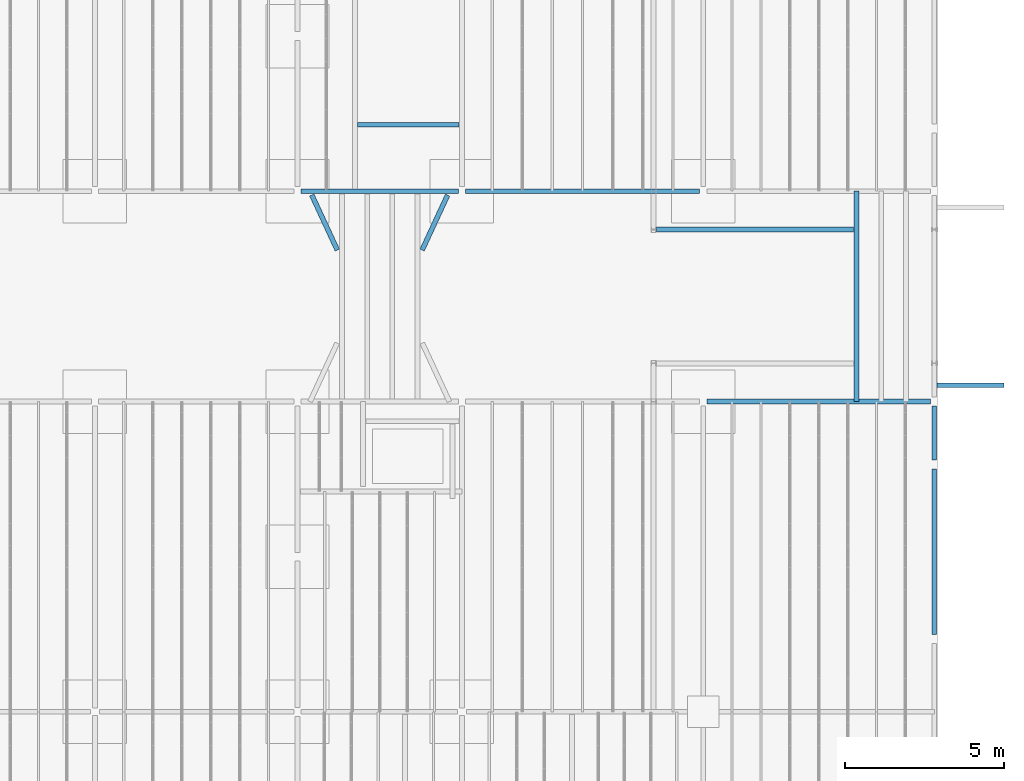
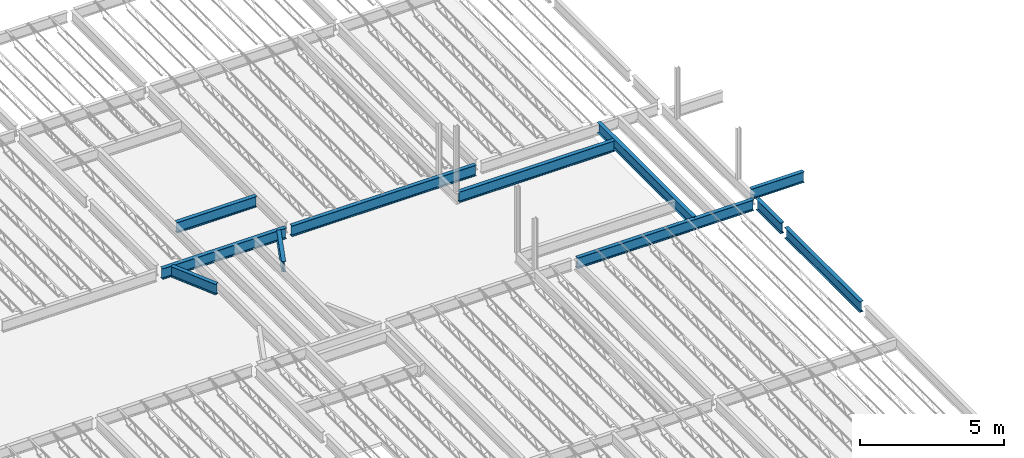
# One storey, part 13 of 75: 11 beams.
"""IFC2X3 building model written with IfcOpenShell, lengths in metres."""

from ifc_helpers import new_model, entity, si_unit, converted_unit, frame, frame_2d, origin, place, context, project, spatial, polyline, circle_curve, parameter, trimmed, segment, composite_curve, outline, extrude, material, element, save


model = new_model("IFC2X3")

# Units and contexts
model_context = context("Model", 3, precision=1e-09, world=origin())
plan_context = context("Plan", 3, precision=1e-09, world=origin())
ifc_project = project(units=[si_unit("LENGTHUNIT", "METRE"), si_unit("AREAUNIT", "SQUARE_METRE"), si_unit("VOLUMEUNIT", "CUBIC_METRE"), converted_unit("PLANEANGLEUNIT", "DEGREE", entity("IfcRatioMeasure", 0.01745329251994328), si_unit("PLANEANGLEUNIT", "RADIAN"), dimensions=[0, 0, 0, 0, 0, 0, 0]), si_unit("TIMEUNIT", "SECOND")], contexts=[model_context, plan_context])

# Site, building, storey
site_placement = place(None, origin())
site = spatial("IfcSite", under=ifc_project, at=site_placement, Name="Default", CompositionType="ELEMENT")
building_placement = place(site_placement, origin())
building = spatial("IfcBuilding", under=site, at=building_placement, CompositionType="ELEMENT")
storey_placement = place(building_placement, origin())
storey = spatial("IfcBuildingStorey", under=building, at=storey_placement, Name="First Floor", CompositionType="ELEMENT", Elevation=-3.531500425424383e-13)

# Beams
ifc_material = material(Name="Metal - Steel - 345 MPa")
beam_1_placement = place(storey_placement, frame((-7.278198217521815, 35.00999999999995, 4.404500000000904), z_axis=(0.0, 0.0, 1.0), x_axis=(0.0, 1.0, 0.0)))
element("IfcBeam", 1, at=beam_1_placement, inside=storey, material=ifc_material, Name="M_W-Wide Flange:W460X60:W460X60", ObjectType="M_W-Wide Flange:W460X60", context=model_context, shape_type="SweptSolid", body=[
    extrude(outline(composite_curve([segment(polyline([(0.2141999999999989, -0.07650000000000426), (0.2274999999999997, -0.07650000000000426)]), True, "CONTINUOUS"), segment(polyline([(0.2274999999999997, -0.07650000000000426), (0.2274999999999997, 0.0764999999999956)]), True, "CONTINUOUS"), segment(polyline([(0.2274999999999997, 0.0764999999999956), (0.2141999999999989, 0.0764999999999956)]), True, "CONTINUOUS"), segment(polyline([(0.2141999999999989, 0.0764999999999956), (0.2141999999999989, 0.02169999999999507)]), True, "CONTINUOUS"), segment(trimmed(circle_curve(frame_2d((0.1964999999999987, 0.02169999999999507), x_axis=(1.0, 0.0)), 0.0177), [parameter(269.9999999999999)], [parameter(359.9999999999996)], True, "PARAMETER"), False, "CONTINUOUS"), segment(polyline([(0.1964999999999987, 0.00399999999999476), (-0.1965000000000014, 0.00399999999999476)]), True, "CONTINUOUS"), segment(trimmed(circle_curve(frame_2d((-0.1965000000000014, 0.02169999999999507), x_axis=(0.0, -1.0)), 0.0177), [parameter(269.9999999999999)], [parameter(359.9999999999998)], True, "PARAMETER"), False, "CONTINUOUS"), segment(polyline([(-0.2142000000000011, 0.02169999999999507), (-0.2142000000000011, 0.0764999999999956)]), True, "CONTINUOUS"), segment(polyline([(-0.2142000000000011, 0.0764999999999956), (-0.2275000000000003, 0.0764999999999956)]), True, "CONTINUOUS"), segment(polyline([(-0.2275000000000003, 0.0764999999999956), (-0.2275000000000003, -0.07650000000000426)]), True, "CONTINUOUS"), segment(polyline([(-0.2275000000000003, -0.07650000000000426), (-0.2142000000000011, -0.07650000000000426)]), True, "CONTINUOUS"), segment(polyline([(-0.2142000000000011, -0.07650000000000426), (-0.2142000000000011, -0.02170000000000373)]), True, "CONTINUOUS"), segment(trimmed(circle_curve(frame_2d((-0.1965000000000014, -0.02170000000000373), x_axis=(-1.0, 0.0)), 0.0177), [parameter(269.9999999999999)], [parameter(359.9999999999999)], True, "PARAMETER"), False, "CONTINUOUS"), segment(polyline([(-0.1965000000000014, -0.004000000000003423), (0.1964999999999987, -0.004000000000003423)]), True, "CONTINUOUS"), segment(trimmed(circle_curve(frame_2d((0.1964999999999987, -0.02170000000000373), x_axis=(0.0, 1.0)), 0.0177), [parameter(269.9999999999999)], [parameter(5.088887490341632e-14)], True, "PARAMETER"), False, "CONTINUOUS"), segment(polyline([(0.2141999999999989, -0.02170000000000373), (0.2141999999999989, -0.07650000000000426)]), True, "CONTINUOUS")], self_intersect=False)), frame((0.0, 7.487076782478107, -0.2275000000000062), z_axis=(0.0, -1.0, 0.0), x_axis=(0.0, 0.0, -1.0)), (0.0, 0.0, 1.0), 7.370574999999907),
])
beam_2_placement = place(storey_placement, frame((-17.93013951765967, 37.10102780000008, 4.468000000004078), z_axis=(0.0, 0.0, 1.0), x_axis=(0.0, -1.0, 0.0)))
element("IfcBeam", 2, at=beam_2_placement, inside=storey, material=ifc_material, Name="M_W-Wide Flange:W460X60:W460X60", ObjectType="M_W-Wide Flange:W460X60", context=model_context, shape_type="SweptSolid", body=[
    extrude(outline(composite_curve([segment(polyline([(-0.0764999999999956, -0.2142000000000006), (-0.0764999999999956, -0.2275000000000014)]), True, "CONTINUOUS"), segment(polyline([(-0.0764999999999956, -0.2275000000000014), (0.07650000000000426, -0.2275000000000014)]), True, "CONTINUOUS"), segment(polyline([(0.07650000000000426, -0.2275000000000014), (0.07650000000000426, -0.2142000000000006)]), True, "CONTINUOUS"), segment(polyline([(0.07650000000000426, -0.2142000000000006), (0.02170000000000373, -0.2142000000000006)]), True, "CONTINUOUS"), segment(trimmed(circle_curve(frame_2d((0.02170000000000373, -0.1965000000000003), x_axis=(1.0, 0.0)), 0.0177), [parameter(180.0)], [parameter(269.9999999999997)], True, "PARAMETER"), False, "CONTINUOUS"), segment(polyline([(0.004000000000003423, -0.1965000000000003), (0.004000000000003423, 0.1964999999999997)]), True, "CONTINUOUS"), segment(trimmed(circle_curve(frame_2d((0.02170000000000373, 0.1964999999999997), x_axis=(1.0, 0.0)), 0.0177), [parameter(90.00000000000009)], [parameter(179.9999999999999)], True, "PARAMETER"), False, "CONTINUOUS"), segment(polyline([(0.02170000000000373, 0.2141999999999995), (0.07650000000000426, 0.2141999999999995)]), True, "CONTINUOUS"), segment(polyline([(0.07650000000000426, 0.2141999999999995), (0.07650000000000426, 0.2274999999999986)]), True, "CONTINUOUS"), segment(polyline([(0.07650000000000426, 0.2274999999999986), (-0.0764999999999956, 0.2274999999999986)]), True, "CONTINUOUS"), segment(polyline([(-0.0764999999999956, 0.2274999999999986), (-0.0764999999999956, 0.2141999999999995)]), True, "CONTINUOUS"), segment(polyline([(-0.0764999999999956, 0.2141999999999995), (-0.02169999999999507, 0.2141999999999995)]), True, "CONTINUOUS"), segment(trimmed(circle_curve(frame_2d((-0.02169999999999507, 0.1964999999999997), x_axis=(1.0, 0.0)), 0.0177), [parameter(359.9999999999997)], [parameter(89.99999999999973)], True, "PARAMETER"), False, "CONTINUOUS"), segment(polyline([(-0.00399999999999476, 0.1964999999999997), (-0.00399999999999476, -0.1965000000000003)]), True, "CONTINUOUS"), segment(trimmed(circle_curve(frame_2d((-0.02169999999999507, -0.1965000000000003), x_axis=(1.0, 0.0)), 0.0177), [parameter(269.9999999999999)], [parameter(0.0)], True, "PARAMETER"), False, "CONTINUOUS"), segment(polyline([(-0.02169999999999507, -0.2142000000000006), (-0.0764999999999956, -0.2142000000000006)]), True, "CONTINUOUS")], self_intersect=False)), frame((0.0, -0.2327190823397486, -0.2275000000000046), z_axis=(0.0, -1.0, 0.0), x_axis=(1.0, 0.0, 0.0)), (0.0, 0.0, -1.0), 3.192108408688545),
])
beam_3_placement = place(storey_placement, frame((-14.87733184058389, 35.00999999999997, 4.404500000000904), z_axis=(0.0, 0.0, 1.0), x_axis=(0.0, 1.0, 0.0)))
element("IfcBeam", 3, at=beam_3_placement, inside=storey, material=ifc_material, Name="M_W-Wide Flange:W460X60:W460X60", ObjectType="M_W-Wide Flange:W460X60", context=model_context, shape_type="SweptSolid", body=[
    extrude(outline(composite_curve([segment(polyline([(0.2141999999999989, -0.0764999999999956), (0.2274999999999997, -0.0764999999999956)]), True, "CONTINUOUS"), segment(polyline([(0.2274999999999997, -0.0764999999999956), (0.2274999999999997, 0.07650000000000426)]), True, "CONTINUOUS"), segment(polyline([(0.2274999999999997, 0.07650000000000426), (0.2141999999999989, 0.07650000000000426)]), True, "CONTINUOUS"), segment(polyline([(0.2141999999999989, 0.07650000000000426), (0.2141999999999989, 0.02170000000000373)]), True, "CONTINUOUS"), segment(trimmed(circle_curve(frame_2d((0.1964999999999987, 0.02170000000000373), x_axis=(1.0, 0.0)), 0.0177), [parameter(269.9999999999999)], [parameter(359.9999999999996)], True, "PARAMETER"), False, "CONTINUOUS"), segment(polyline([(0.1964999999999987, 0.004000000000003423), (-0.1965000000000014, 0.004000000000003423)]), True, "CONTINUOUS"), segment(trimmed(circle_curve(frame_2d((-0.1965000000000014, 0.02170000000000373), x_axis=(0.0, -1.0)), 0.0177), [parameter(269.9999999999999)], [parameter(359.9999999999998)], True, "PARAMETER"), False, "CONTINUOUS"), segment(polyline([(-0.2142000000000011, 0.02170000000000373), (-0.2142000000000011, 0.07650000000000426)]), True, "CONTINUOUS"), segment(polyline([(-0.2142000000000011, 0.07650000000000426), (-0.2275000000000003, 0.07650000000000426)]), True, "CONTINUOUS"), segment(polyline([(-0.2275000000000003, 0.07650000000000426), (-0.2275000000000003, -0.0764999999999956)]), True, "CONTINUOUS"), segment(polyline([(-0.2275000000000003, -0.0764999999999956), (-0.2142000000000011, -0.0764999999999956)]), True, "CONTINUOUS"), segment(polyline([(-0.2142000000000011, -0.0764999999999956), (-0.2142000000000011, -0.02169999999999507)]), True, "CONTINUOUS"), segment(trimmed(circle_curve(frame_2d((-0.1965000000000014, -0.02169999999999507), x_axis=(-1.0, 0.0)), 0.0177), [parameter(269.9999999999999)], [parameter(359.9999999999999)], True, "PARAMETER"), False, "CONTINUOUS"), segment(polyline([(-0.1965000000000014, -0.00399999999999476), (0.1964999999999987, -0.00399999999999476)]), True, "CONTINUOUS"), segment(trimmed(circle_curve(frame_2d((0.1964999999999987, -0.02169999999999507), x_axis=(0.0, 1.0)), 0.0177), [parameter(269.9999999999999)], [parameter(5.088887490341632e-14)], True, "PARAMETER"), False, "CONTINUOUS"), segment(polyline([(0.2141999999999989, -0.02169999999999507), (0.2141999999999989, -0.0764999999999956)]), True, "CONTINUOUS")], self_intersect=False)), frame((0.0, 5.067968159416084, -0.2275000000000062), z_axis=(0.0, -1.0, 0.0), x_axis=(0.0, 0.0, -1.0)), (0.0, 0.0, 1.0), 4.950625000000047),
])
beam_4_placement = place(storey_placement, frame((-18.72208974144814, 32.9750091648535, 4.468000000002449), z_axis=(0.0, 0.0, 1.0), x_axis=(0.9072712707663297, 0.4205458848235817, 0.0)))
element("IfcBeam", 4, at=beam_4_placement, inside=storey, material=ifc_material, Name="M_W-Wide Flange:W460X60:W460X60", ObjectType="M_W-Wide Flange:W460X60", context=model_context, shape_type="SweptSolid", body=[
    extrude(outline(composite_curve([segment(polyline([(-0.07649999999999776, -0.2142), (-0.07649999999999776, -0.2275000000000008)]), True, "CONTINUOUS"), segment(polyline([(-0.07649999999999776, -0.2275000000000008), (0.0765000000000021, -0.2275000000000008)]), True, "CONTINUOUS"), segment(polyline([(0.0765000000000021, -0.2275000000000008), (0.0765000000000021, -0.2142)]), True, "CONTINUOUS"), segment(polyline([(0.0765000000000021, -0.2142), (0.02170000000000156, -0.2142)]), True, "CONTINUOUS"), segment(trimmed(circle_curve(frame_2d((0.02170000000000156, -0.1964999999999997), x_axis=(1.0, 0.0)), 0.0177), [parameter(180.0)], [parameter(269.9999999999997)], True, "PARAMETER"), False, "CONTINUOUS"), segment(polyline([(0.004000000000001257, -0.1964999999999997), (0.004000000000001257, 0.1965000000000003)]), True, "CONTINUOUS"), segment(trimmed(circle_curve(frame_2d((0.02170000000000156, 0.1965000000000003), x_axis=(1.0, 0.0)), 0.0177), [parameter(90.00000000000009)], [parameter(179.9999999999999)], True, "PARAMETER"), False, "CONTINUOUS"), segment(polyline([(0.02170000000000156, 0.2142000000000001), (0.0765000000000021, 0.2142000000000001)]), True, "CONTINUOUS"), segment(polyline([(0.0765000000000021, 0.2142000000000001), (0.0765000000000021, 0.2274999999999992)]), True, "CONTINUOUS"), segment(polyline([(0.0765000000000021, 0.2274999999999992), (-0.07649999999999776, 0.2274999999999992)]), True, "CONTINUOUS"), segment(polyline([(-0.07649999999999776, 0.2274999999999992), (-0.07649999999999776, 0.2142000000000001)]), True, "CONTINUOUS"), segment(polyline([(-0.07649999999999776, 0.2142000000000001), (-0.0216999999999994, 0.2142000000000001)]), True, "CONTINUOUS"), segment(trimmed(circle_curve(frame_2d((-0.02169999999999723, 0.1965000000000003), x_axis=(1.0, 0.0)), 0.0177), [parameter(359.9999999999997)], [parameter(89.99999999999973)], True, "PARAMETER"), False, "CONTINUOUS"), segment(polyline([(-0.00399999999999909, 0.1965000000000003), (-0.00399999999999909, -0.1964999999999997)]), True, "CONTINUOUS"), segment(trimmed(circle_curve(frame_2d((-0.02169999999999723, -0.1964999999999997), x_axis=(1.0, 0.0)), 0.0177), [parameter(269.9999999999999)], [parameter(0.0)], True, "PARAMETER"), False, "CONTINUOUS"), segment(polyline([(-0.0216999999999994, -0.2142), (-0.07649999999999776, -0.2142)]), True, "CONTINUOUS")], self_intersect=False)), frame((0.0, 0.2000073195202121, -0.2275000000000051), z_axis=(0.0, -1.0, 0.0), x_axis=(1.0, 0.0, 0.0)), (0.0, 0.0, -1.0), 1.910493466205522),
])
beam_5_placement = place(storey_placement, frame((0.0, 28.38285557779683, 4.46800000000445), z_axis=(0.0, 0.0, 1.0), x_axis=(-1.0, 0.0, 0.0)))
element("IfcBeam", 5, at=beam_5_placement, inside=storey, material=ifc_material, Name="M_W-Wide Flange:W460X60:W460X60", ObjectType="M_W-Wide Flange:W460X60", context=model_context, shape_type="SweptSolid", body=[
    extrude(outline(composite_curve([segment(polyline([(0.2142000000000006, -0.07650000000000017), (0.2275000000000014, -0.07650000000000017)]), True, "CONTINUOUS"), segment(polyline([(0.2275000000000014, -0.07650000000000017), (0.2275000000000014, 0.07650000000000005)]), True, "CONTINUOUS"), segment(polyline([(0.2275000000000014, 0.07650000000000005), (0.2142000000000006, 0.07650000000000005)]), True, "CONTINUOUS"), segment(polyline([(0.2142000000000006, 0.07650000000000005), (0.2142000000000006, 0.02169999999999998)]), True, "CONTINUOUS"), segment(trimmed(circle_curve(frame_2d((0.1965000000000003, 0.02169999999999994), x_axis=(0.0, 1.0)), 0.0177), [parameter(180.0)], [parameter(269.9999999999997)], True, "PARAMETER"), False, "CONTINUOUS"), segment(polyline([(0.1965000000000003, 0.003999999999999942), (-0.1964999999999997, 0.003999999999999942)]), True, "CONTINUOUS"), segment(trimmed(circle_curve(frame_2d((-0.1964999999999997, 0.02169999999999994), x_axis=(0.0, 1.0)), 0.0177), [parameter(90.00000000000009)], [parameter(179.9999999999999)], True, "PARAMETER"), False, "CONTINUOUS"), segment(polyline([(-0.2141999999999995, 0.02169999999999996), (-0.2141999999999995, 0.07650000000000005)]), True, "CONTINUOUS"), segment(polyline([(-0.2141999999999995, 0.07650000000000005), (-0.2274999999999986, 0.07650000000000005)]), True, "CONTINUOUS"), segment(polyline([(-0.2274999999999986, 0.07650000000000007), (-0.2274999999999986, -0.0764999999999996)]), True, "CONTINUOUS"), segment(polyline([(-0.2274999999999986, -0.0764999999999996), (-0.2141999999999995, -0.0764999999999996)]), True, "CONTINUOUS"), segment(polyline([(-0.2141999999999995, -0.0764999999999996), (-0.2141999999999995, -0.02170000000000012)]), True, "CONTINUOUS"), segment(trimmed(circle_curve(frame_2d((-0.1964999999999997, -0.02170000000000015), x_axis=(0.0, 1.0)), 0.0177), [parameter(359.9999999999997)], [parameter(89.99999999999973)], True, "PARAMETER"), False, "CONTINUOUS"), segment(polyline([(-0.1964999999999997, -0.004000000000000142), (0.1965000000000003, -0.004000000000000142)]), True, "CONTINUOUS"), segment(trimmed(circle_curve(frame_2d((0.1965000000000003, -0.02170000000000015), x_axis=(0.0, 1.0)), 0.0177), [parameter(269.9999999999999)], [parameter(0.0)], True, "PARAMETER"), False, "CONTINUOUS"), segment(polyline([(0.2142000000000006, -0.02170000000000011), (0.2142000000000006, -0.07650000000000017)]), True, "CONTINUOUS")], self_intersect=False)), frame((0.0, 1.842839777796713, -0.2275000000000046), z_axis=(0.0, -1.0, 0.0), x_axis=(0.0, 0.0, -1.0)), (0.0, 0.0, 1.0), 1.698784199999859),
])
beam_6_placement = place(storey_placement, frame((-16.21782005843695, 32.9750091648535, 4.468000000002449), z_axis=(0.0, 0.0, 1.0), x_axis=(0.90727127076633, -0.4205458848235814, 0.0)))
element("IfcBeam", 6, at=beam_6_placement, inside=storey, material=ifc_material, Name="M_W-Wide Flange:W460X60:W460X60", ObjectType="M_W-Wide Flange:W460X60", context=model_context, shape_type="SweptSolid", body=[
    extrude(outline(composite_curve([segment(polyline([(-0.07649999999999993, -0.2142), (-0.07649999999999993, -0.2275000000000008)]), True, "CONTINUOUS"), segment(polyline([(-0.07649999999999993, -0.2275000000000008), (0.07649999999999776, -0.2275000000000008)]), True, "CONTINUOUS"), segment(polyline([(0.07649999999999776, -0.2275000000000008), (0.07649999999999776, -0.2142)]), True, "CONTINUOUS"), segment(polyline([(0.07649999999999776, -0.2142), (0.02169999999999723, -0.2142)]), True, "CONTINUOUS"), segment(trimmed(circle_curve(frame_2d((0.02169999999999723, -0.1964999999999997), x_axis=(1.0, 0.0)), 0.0177), [parameter(180.0)], [parameter(269.9999999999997)], True, "PARAMETER"), False, "CONTINUOUS"), segment(polyline([(0.00399999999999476, -0.1964999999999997), (0.00399999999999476, 0.1965000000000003)]), True, "CONTINUOUS"), segment(trimmed(circle_curve(frame_2d((0.02169999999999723, 0.1965000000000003), x_axis=(1.0, 0.0)), 0.0177), [parameter(90.00000000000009)], [parameter(179.9999999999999)], True, "PARAMETER"), False, "CONTINUOUS"), segment(polyline([(0.02169999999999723, 0.2142000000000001), (0.07649999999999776, 0.2142000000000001)]), True, "CONTINUOUS"), segment(polyline([(0.07649999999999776, 0.2142000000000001), (0.07649999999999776, 0.2274999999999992)]), True, "CONTINUOUS"), segment(polyline([(0.07649999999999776, 0.2274999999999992), (-0.07649999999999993, 0.2274999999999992)]), True, "CONTINUOUS"), segment(polyline([(-0.07649999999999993, 0.2274999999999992), (-0.07649999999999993, 0.2142000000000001)]), True, "CONTINUOUS"), segment(polyline([(-0.07649999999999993, 0.2142000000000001), (-0.02170000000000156, 0.2142000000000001)]), True, "CONTINUOUS"), segment(trimmed(circle_curve(frame_2d((-0.02170000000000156, 0.1965000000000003), x_axis=(1.0, 0.0)), 0.0177), [parameter(359.9999999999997)], [parameter(89.99999999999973)], True, "PARAMETER"), False, "CONTINUOUS"), segment(polyline([(-0.004000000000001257, 0.1965000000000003), (-0.004000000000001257, -0.1964999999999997)]), True, "CONTINUOUS"), segment(trimmed(circle_curve(frame_2d((-0.02170000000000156, -0.1964999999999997), x_axis=(1.0, 0.0)), 0.0177), [parameter(269.9999999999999)], [parameter(0.0)], True, "PARAMETER"), False, "CONTINUOUS"), segment(polyline([(-0.02170000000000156, -0.2142), (-0.07649999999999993, -0.2142)]), True, "CONTINUOUS")], self_intersect=False)), frame((0.0, 0.2000073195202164, -0.2275000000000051), z_axis=(0.0, -1.0, 0.0), x_axis=(1.0, 0.0, 0.0)), (0.0, 0.0, -1.0), 1.910493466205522),
])
beam_7_placement = place(storey_placement, frame((-2.450103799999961, 28.65946174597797, 4.46800000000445)))
element("IfcBeam", 7, at=beam_7_placement, inside=storey, material=ifc_material, Name="M_W-Wide Flange:W460X60:W460X60", ObjectType="M_W-Wide Flange:W460X60", context=model_context, shape_type="SweptSolid", body=[
    extrude(outline(composite_curve([segment(polyline([(-0.07649999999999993, -0.2142), (-0.07649999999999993, -0.2275000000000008)]), True, "CONTINUOUS"), segment(polyline([(-0.07649999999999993, -0.2275000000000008), (0.0765000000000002, -0.2275000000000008)]), True, "CONTINUOUS"), segment(polyline([(0.0765000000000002, -0.2275000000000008), (0.0765000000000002, -0.2142)]), True, "CONTINUOUS"), segment(polyline([(0.0765000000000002, -0.2142), (0.02170000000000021, -0.2142)]), True, "CONTINUOUS"), segment(trimmed(circle_curve(frame_2d((0.02170000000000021, -0.1964999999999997), x_axis=(1.0, 0.0)), 0.0177), [parameter(180.0)], [parameter(269.9999999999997)], True, "PARAMETER"), False, "CONTINUOUS"), segment(polyline([(0.004000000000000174, -0.1964999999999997), (0.004000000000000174, 0.1965000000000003)]), True, "CONTINUOUS"), segment(trimmed(circle_curve(frame_2d((0.02170000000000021, 0.1965000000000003), x_axis=(1.0, 0.0)), 0.0177), [parameter(90.00000000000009)], [parameter(179.9999999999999)], True, "PARAMETER"), False, "CONTINUOUS"), segment(polyline([(0.02169999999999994, 0.2142000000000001), (0.0765000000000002, 0.2142000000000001)]), True, "CONTINUOUS"), segment(polyline([(0.0765000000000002, 0.2142000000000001), (0.0765000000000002, 0.2274999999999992)]), True, "CONTINUOUS"), segment(polyline([(0.0765000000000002, 0.2274999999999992), (-0.07649999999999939, 0.2274999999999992)]), True, "CONTINUOUS"), segment(polyline([(-0.07649999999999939, 0.2274999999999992), (-0.07649999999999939, 0.2142000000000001)]), True, "CONTINUOUS"), segment(polyline([(-0.07649999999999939, 0.2142000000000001), (-0.02169999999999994, 0.2142000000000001)]), True, "CONTINUOUS"), segment(trimmed(circle_curve(frame_2d((-0.02169999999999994, 0.1965000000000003), x_axis=(1.0, 0.0)), 0.0177), [parameter(359.9999999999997)], [parameter(89.99999999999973)], True, "PARAMETER"), False, "CONTINUOUS"), segment(polyline([(-0.004000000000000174, 0.1965000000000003), (-0.004000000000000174, -0.1964999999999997)]), True, "CONTINUOUS"), segment(trimmed(circle_curve(frame_2d((-0.02169999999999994, -0.1964999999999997), x_axis=(1.0, 0.0)), 0.0177), [parameter(269.9999999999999)], [parameter(0.0)], True, "PARAMETER"), False, "CONTINUOUS"), segment(polyline([(-0.02169999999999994, -0.2142), (-0.07649999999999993, -0.2142)]), True, "CONTINUOUS")], self_intersect=False)), frame((0.0, -0.2794617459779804, -0.2275000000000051), z_axis=(0.0, -1.0, 0.0), x_axis=(1.0, 0.0, 0.0)), (0.0, 0.0, -1.0), 6.629999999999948),
])
beam_8_placement = place(storey_placement, frame((1.889788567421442, 28.89499999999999, 4.46800000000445), z_axis=(0.0, 0.0, 1.0), x_axis=(0.0, 1.0, 0.0)))
element("IfcBeam", 8, at=beam_8_placement, inside=storey, material=ifc_material, Name="M_W-Wide Flange:W460X60:W460X60", ObjectType="M_W-Wide Flange:W460X60", context=model_context, shape_type="SweptSolid", body=[
    extrude(outline(composite_curve([segment(polyline([(-0.07649999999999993, -0.2142), (-0.07649999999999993, -0.2275000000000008)]), True, "CONTINUOUS"), segment(polyline([(-0.07649999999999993, -0.2275000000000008), (0.07649999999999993, -0.2275000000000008)]), True, "CONTINUOUS"), segment(polyline([(0.07649999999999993, -0.2275000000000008), (0.07649999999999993, -0.2142)]), True, "CONTINUOUS"), segment(polyline([(0.07649999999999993, -0.2142), (0.0216999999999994, -0.2142)]), True, "CONTINUOUS"), segment(trimmed(circle_curve(frame_2d((0.0216999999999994, -0.1964999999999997), x_axis=(1.0, 0.0)), 0.0177), [parameter(180.0)], [parameter(269.9999999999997)], True, "PARAMETER"), False, "CONTINUOUS"), segment(polyline([(0.003999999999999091, -0.1964999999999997), (0.003999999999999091, 0.1965000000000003)]), True, "CONTINUOUS"), segment(trimmed(circle_curve(frame_2d((0.0216999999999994, 0.1965000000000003), x_axis=(1.0, 0.0)), 0.0177), [parameter(90.00000000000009)], [parameter(179.9999999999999)], True, "PARAMETER"), False, "CONTINUOUS"), segment(polyline([(0.0216999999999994, 0.2142000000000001), (0.07649999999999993, 0.2142000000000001)]), True, "CONTINUOUS"), segment(polyline([(0.07649999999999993, 0.2142000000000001), (0.07649999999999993, 0.2274999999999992)]), True, "CONTINUOUS"), segment(polyline([(0.07649999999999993, 0.2274999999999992), (-0.07649999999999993, 0.2274999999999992)]), True, "CONTINUOUS"), segment(polyline([(-0.07649999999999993, 0.2274999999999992), (-0.07649999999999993, 0.2142000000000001)]), True, "CONTINUOUS"), segment(polyline([(-0.07649999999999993, 0.2142000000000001), (-0.0216999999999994, 0.2142000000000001)]), True, "CONTINUOUS"), segment(trimmed(circle_curve(frame_2d((-0.0216999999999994, 0.1965000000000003), x_axis=(1.0, 0.0)), 0.0177), [parameter(359.9999999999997)], [parameter(89.99999999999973)], True, "PARAMETER"), False, "CONTINUOUS"), segment(polyline([(-0.003999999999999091, 0.1965000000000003), (-0.003999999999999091, -0.1964999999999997)]), True, "CONTINUOUS"), segment(trimmed(circle_curve(frame_2d((-0.0216999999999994, -0.1964999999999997), x_axis=(1.0, 0.0)), 0.0177), [parameter(269.9999999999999)], [parameter(0.0)], True, "PARAMETER"), False, "CONTINUOUS"), segment(polyline([(-0.0216999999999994, -0.2142), (-0.07649999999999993, -0.2142)]), True, "CONTINUOUS")], self_intersect=False)), frame((0.0, 1.800588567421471, -0.2275000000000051), z_axis=(0.0, 1.0, 0.0), x_axis=(-1.0, 0.0, 0.0)), (0.0, 0.0, -1.0), 2.107099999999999),
])
beam_9_placement = place(storey_placement, frame((-8.706698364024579, 33.80490799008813, 4.46800000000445), z_axis=(0.0, 0.0, 1.0), x_axis=(0.0, -1.0, 0.0)))
element("IfcBeam", 9, at=beam_9_placement, inside=storey, material=ifc_material, Name="M_W-Wide Flange:W460X60:W460X60", ObjectType="M_W-Wide Flange:W460X60", context=model_context, shape_type="SweptSolid", body=[
    extrude(outline(composite_curve([segment(polyline([(-0.0764999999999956, -0.2142), (-0.0764999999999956, -0.2275000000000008)]), True, "CONTINUOUS"), segment(polyline([(-0.0764999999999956, -0.2275000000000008), (0.07650000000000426, -0.2275000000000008)]), True, "CONTINUOUS"), segment(polyline([(0.07650000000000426, -0.2275000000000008), (0.07650000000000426, -0.2142)]), True, "CONTINUOUS"), segment(polyline([(0.07650000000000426, -0.2142), (0.02170000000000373, -0.2142)]), True, "CONTINUOUS"), segment(trimmed(circle_curve(frame_2d((0.02170000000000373, -0.1964999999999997), x_axis=(1.0, 0.0)), 0.0177), [parameter(180.0)], [parameter(269.9999999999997)], True, "PARAMETER"), False, "CONTINUOUS"), segment(polyline([(0.004000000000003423, -0.1964999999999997), (0.004000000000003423, 0.1965000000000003)]), True, "CONTINUOUS"), segment(trimmed(circle_curve(frame_2d((0.02170000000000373, 0.1965000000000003), x_axis=(1.0, 0.0)), 0.0177), [parameter(90.00000000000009)], [parameter(179.9999999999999)], True, "PARAMETER"), False, "CONTINUOUS"), segment(polyline([(0.02170000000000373, 0.2142000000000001), (0.07650000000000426, 0.2142000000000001)]), True, "CONTINUOUS"), segment(polyline([(0.07650000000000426, 0.2142000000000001), (0.07650000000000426, 0.2274999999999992)]), True, "CONTINUOUS"), segment(polyline([(0.07650000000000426, 0.2274999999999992), (-0.0764999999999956, 0.2274999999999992)]), True, "CONTINUOUS"), segment(polyline([(-0.0764999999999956, 0.2274999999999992), (-0.0764999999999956, 0.2142000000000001)]), True, "CONTINUOUS"), segment(polyline([(-0.0764999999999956, 0.2142000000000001), (-0.02169999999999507, 0.2142000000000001)]), True, "CONTINUOUS"), segment(trimmed(circle_curve(frame_2d((-0.02169999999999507, 0.1965000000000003), x_axis=(1.0, 0.0)), 0.0177), [parameter(359.9999999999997)], [parameter(89.99999999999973)], True, "PARAMETER"), False, "CONTINUOUS"), segment(polyline([(-0.00399999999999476, 0.1965000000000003), (-0.00399999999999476, -0.1964999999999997)]), True, "CONTINUOUS"), segment(trimmed(circle_curve(frame_2d((-0.02169999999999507, -0.1964999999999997), x_axis=(1.0, 0.0)), 0.0177), [parameter(269.9999999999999)], [parameter(0.0)], True, "PARAMETER"), False, "CONTINUOUS"), segment(polyline([(-0.02169999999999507, -0.2142), (-0.0764999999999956, -0.2142)]), True, "CONTINUOUS")], self_intersect=False)), frame((0.0, -0.04479363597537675, -0.2275000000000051), z_axis=(0.0, -1.0, 0.0), x_axis=(1.0, 0.0, 0.0)), (0.0, 0.0, -1.0), 6.212188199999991),
])
beam_10_placement = place(storey_placement, frame((0.00188095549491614, 28.37999999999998, 4.404500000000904), z_axis=(0.0, 0.0, 1.0), x_axis=(0.0, 1.0, 0.0)))
element("IfcBeam", 10, at=beam_10_placement, inside=storey, material=ifc_material, Name="M_W-Wide Flange:W460X60:W460X60", ObjectType="M_W-Wide Flange:W460X60", context=model_context, shape_type="SweptSolid", body=[
    extrude(outline(composite_curve([segment(polyline([(0.2141999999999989, -0.07649999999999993), (0.2274999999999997, -0.07649999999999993)]), True, "CONTINUOUS"), segment(polyline([(0.2274999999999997, -0.07649999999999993), (0.2274999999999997, 0.07649999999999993)]), True, "CONTINUOUS"), segment(polyline([(0.2274999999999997, 0.07649999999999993), (0.2141999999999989, 0.07649999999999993)]), True, "CONTINUOUS"), segment(polyline([(0.2141999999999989, 0.07649999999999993), (0.2141999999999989, 0.0216999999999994)]), True, "CONTINUOUS"), segment(trimmed(circle_curve(frame_2d((0.1964999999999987, 0.0216999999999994), x_axis=(1.0, 0.0)), 0.0177), [parameter(269.9999999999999)], [parameter(359.9999999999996)], True, "PARAMETER"), False, "CONTINUOUS"), segment(polyline([(0.1964999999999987, 0.003999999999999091), (-0.1965000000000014, 0.003999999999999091)]), True, "CONTINUOUS"), segment(trimmed(circle_curve(frame_2d((-0.1965000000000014, 0.0216999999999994), x_axis=(0.0, -1.0)), 0.0177), [parameter(269.9999999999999)], [parameter(359.9999999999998)], True, "PARAMETER"), False, "CONTINUOUS"), segment(polyline([(-0.2142000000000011, 0.0216999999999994), (-0.2142000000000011, 0.07649999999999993)]), True, "CONTINUOUS"), segment(polyline([(-0.2142000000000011, 0.07649999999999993), (-0.2275000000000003, 0.07649999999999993)]), True, "CONTINUOUS"), segment(polyline([(-0.2275000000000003, 0.07649999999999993), (-0.2275000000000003, -0.07649999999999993)]), True, "CONTINUOUS"), segment(polyline([(-0.2275000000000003, -0.07649999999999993), (-0.2142000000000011, -0.07649999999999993)]), True, "CONTINUOUS"), segment(polyline([(-0.2142000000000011, -0.07649999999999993), (-0.2142000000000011, -0.0216999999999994)]), True, "CONTINUOUS"), segment(trimmed(circle_curve(frame_2d((-0.1965000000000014, -0.0216999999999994), x_axis=(-1.0, 0.0)), 0.0177), [parameter(269.9999999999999)], [parameter(359.9999999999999)], True, "PARAMETER"), False, "CONTINUOUS"), segment(polyline([(-0.1965000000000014, -0.003999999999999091), (0.1964999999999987, -0.003999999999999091)]), True, "CONTINUOUS"), segment(trimmed(circle_curve(frame_2d((0.1964999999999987, -0.0216999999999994), x_axis=(0.0, 1.0)), 0.0177), [parameter(269.9999999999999)], [parameter(5.088887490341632e-14)], True, "PARAMETER"), False, "CONTINUOUS"), segment(polyline([(0.2141999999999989, -0.0216999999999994), (0.2141999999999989, -0.07649999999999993)]), True, "CONTINUOUS")], self_intersect=False)), frame((0.0, 7.167180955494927, -0.2275000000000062), z_axis=(0.0, -1.0, 0.0), x_axis=(0.0, 0.0, -1.0)), (0.0, 0.0, 1.0), 7.050599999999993),
])
beam_11_placement = place(storey_placement, frame((0.0, 28.38219939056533, 4.46800000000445), z_axis=(0.0, 0.0, 1.0), x_axis=(-1.0, 0.0, 0.0)))
element("IfcBeam", 11, at=beam_11_placement, inside=storey, material=ifc_material, Name="M_W-Wide Flange:W460X60:W460X60", ObjectType="M_W-Wide Flange:W460X60", context=model_context, shape_type="SweptSolid", body=[
    extrude(outline(composite_curve([segment(polyline([(0.2142000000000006, -0.07650000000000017), (0.2275000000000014, -0.07650000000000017)]), True, "CONTINUOUS"), segment(polyline([(0.2275000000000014, -0.07650000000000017), (0.2275000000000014, 0.07650000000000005)]), True, "CONTINUOUS"), segment(polyline([(0.2275000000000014, 0.07650000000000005), (0.2142000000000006, 0.07650000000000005)]), True, "CONTINUOUS"), segment(polyline([(0.2142000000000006, 0.07650000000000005), (0.2142000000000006, 0.02169999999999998)]), True, "CONTINUOUS"), segment(trimmed(circle_curve(frame_2d((0.1965000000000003, 0.02169999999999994), x_axis=(0.0, 1.0)), 0.0177), [parameter(180.0)], [parameter(269.9999999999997)], True, "PARAMETER"), False, "CONTINUOUS"), segment(polyline([(0.1965000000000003, 0.003999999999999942), (-0.1964999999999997, 0.003999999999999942)]), True, "CONTINUOUS"), segment(trimmed(circle_curve(frame_2d((-0.1964999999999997, 0.02169999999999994), x_axis=(0.0, 1.0)), 0.0177), [parameter(90.00000000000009)], [parameter(179.9999999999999)], True, "PARAMETER"), False, "CONTINUOUS"), segment(polyline([(-0.2141999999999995, 0.02169999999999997), (-0.2141999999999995, 0.07650000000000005)]), True, "CONTINUOUS"), segment(polyline([(-0.2141999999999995, 0.07650000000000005), (-0.2274999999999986, 0.07650000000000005)]), True, "CONTINUOUS"), segment(polyline([(-0.2274999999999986, 0.07650000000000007), (-0.2274999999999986, -0.0764999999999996)]), True, "CONTINUOUS"), segment(polyline([(-0.2274999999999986, -0.0764999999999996), (-0.2141999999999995, -0.0764999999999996)]), True, "CONTINUOUS"), segment(polyline([(-0.2141999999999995, -0.0764999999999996), (-0.2141999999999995, -0.02170000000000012)]), True, "CONTINUOUS"), segment(trimmed(circle_curve(frame_2d((-0.1964999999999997, -0.02170000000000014), x_axis=(0.0, 1.0)), 0.0177), [parameter(359.9999999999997)], [parameter(89.99999999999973)], True, "PARAMETER"), False, "CONTINUOUS"), segment(polyline([(-0.1964999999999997, -0.004000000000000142), (0.1965000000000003, -0.004000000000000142)]), True, "CONTINUOUS"), segment(trimmed(circle_curve(frame_2d((0.1965000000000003, -0.02170000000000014), x_axis=(0.0, 1.0)), 0.0177), [parameter(269.9999999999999)], [parameter(0.0)], True, "PARAMETER"), False, "CONTINUOUS"), segment(polyline([(0.2142000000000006, -0.0217000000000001), (0.2142000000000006, -0.07650000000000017)]), True, "CONTINUOUS")], self_intersect=False)), frame((0.0, 7.332105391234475, -0.2275000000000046), z_axis=(0.0, -1.0, 0.0), x_axis=(0.0, 0.0, -1.0)), (0.0, 0.0, 1.0), 5.207521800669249),
])

save(model, "model.ifc")
